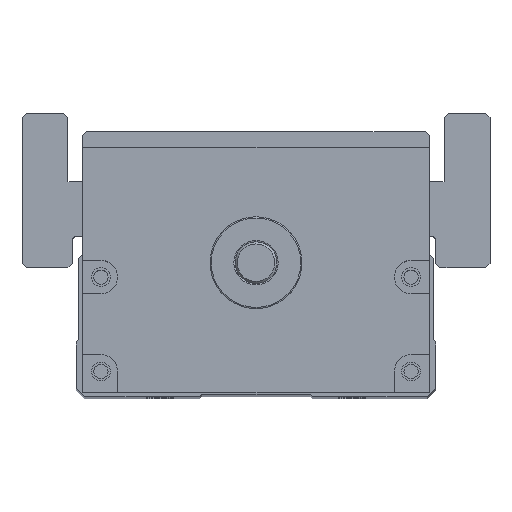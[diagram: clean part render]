
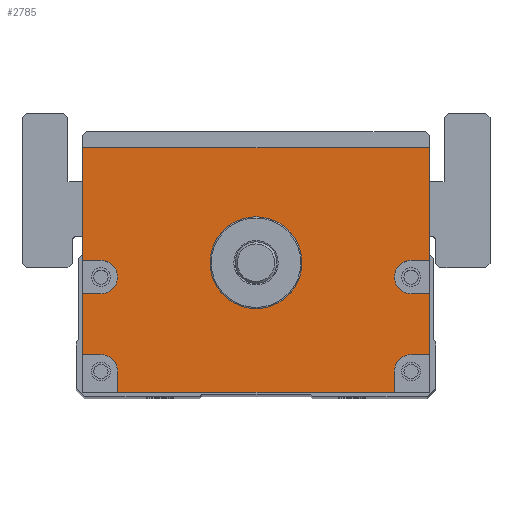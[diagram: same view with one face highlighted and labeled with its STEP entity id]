
A CAD part, top view. The second image highlights one B-rep face of the part: STEP entity #2785.
In plain terms, the highlighted planar face has unit normal (0, 0, 1).
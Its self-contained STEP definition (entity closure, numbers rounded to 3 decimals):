
#875=PLANE('',#10726);
#1195=LINE('',#14603,#1991);
#1197=LINE('',#14611,#1993);
#1198=LINE('',#14614,#1994);
#1199=LINE('',#14616,#1995);
#1200=LINE('',#14620,#1996);
#1201=LINE('',#14622,#1997);
#1202=LINE('',#14623,#1998);
#1203=LINE('',#14625,#1999);
#1204=LINE('',#14629,#2000);
#1205=LINE('',#14631,#2001);
#1206=LINE('',#14633,#2002);
#1207=LINE('',#14637,#2003);
#1208=LINE('',#14639,#2004);
#1209=LINE('',#14641,#2005);
#1991=VECTOR('',#11759,1.);
#1993=VECTOR('',#11767,1.);
#1994=VECTOR('',#11768,1.);
#1995=VECTOR('',#11769,1.);
#1996=VECTOR('',#11772,1.);
#1997=VECTOR('',#11773,1.);
#1998=VECTOR('',#11774,1.);
#1999=VECTOR('',#11775,1.);
#2000=VECTOR('',#11778,1.);
#2001=VECTOR('',#11779,1.);
#2002=VECTOR('',#11780,1.);
#2003=VECTOR('',#11783,1.);
#2004=VECTOR('',#11784,1.);
#2005=VECTOR('',#11785,1.);
#2785=ADVANCED_FACE('',(#3644,#3645),#875,.T.);
#3644=FACE_BOUND('',#4112,.T.);
#3645=FACE_BOUND('',#4113,.T.);
#4112=EDGE_LOOP('',(#4998,#4999,#5000,#5001,#5002,#5003,#5004,#5005,#5006,
#5007,#5008,#5009,#5010,#5011,#5012,#5013,#5014,#5015));
#4113=EDGE_LOOP('',(#5016));
#4998=ORIENTED_EDGE('',*,*,#8879,.F.);
#4999=ORIENTED_EDGE('',*,*,#8880,.T.);
#5000=ORIENTED_EDGE('',*,*,#8881,.F.);
#5001=ORIENTED_EDGE('',*,*,#8882,.F.);
#5002=ORIENTED_EDGE('',*,*,#8883,.F.);
#5003=ORIENTED_EDGE('',*,*,#8884,.T.);
#5004=ORIENTED_EDGE('',*,*,#8875,.T.);
#5005=ORIENTED_EDGE('',*,*,#8885,.T.);
#5006=ORIENTED_EDGE('',*,*,#8886,.F.);
#5007=ORIENTED_EDGE('',*,*,#8887,.F.);
#5008=ORIENTED_EDGE('',*,*,#8888,.F.);
#5009=ORIENTED_EDGE('',*,*,#8889,.T.);
#5010=ORIENTED_EDGE('',*,*,#8890,.F.);
#5011=ORIENTED_EDGE('',*,*,#8891,.F.);
#5012=ORIENTED_EDGE('',*,*,#8892,.F.);
#5013=ORIENTED_EDGE('',*,*,#8893,.T.);
#5014=ORIENTED_EDGE('',*,*,#8894,.F.);
#5015=ORIENTED_EDGE('',*,*,#8895,.F.);
#5016=ORIENTED_EDGE('',*,*,#8861,.T.);
#7831=VERTEX_POINT('',#14574);
#7844=VERTEX_POINT('',#14602);
#7845=VERTEX_POINT('',#14604);
#7848=VERTEX_POINT('',#14612);
#7849=VERTEX_POINT('',#14613);
#7850=VERTEX_POINT('',#14615);
#7851=VERTEX_POINT('',#14617);
#7852=VERTEX_POINT('',#14619);
#7853=VERTEX_POINT('',#14621);
#7854=VERTEX_POINT('',#14624);
#7855=VERTEX_POINT('',#14626);
#7856=VERTEX_POINT('',#14628);
#7857=VERTEX_POINT('',#14630);
#7858=VERTEX_POINT('',#14632);
#7859=VERTEX_POINT('',#14634);
#7860=VERTEX_POINT('',#14636);
#7861=VERTEX_POINT('',#14638);
#7862=VERTEX_POINT('',#14640);
#7863=VERTEX_POINT('',#14642);
#8861=EDGE_CURVE('',#7831,#7831,#10287,.T.);
#8875=EDGE_CURVE('',#7845,#7844,#1195,.T.);
#8879=EDGE_CURVE('',#7848,#7849,#1197,.T.);
#8880=EDGE_CURVE('',#7848,#7850,#1198,.T.);
#8881=EDGE_CURVE('',#7851,#7850,#1199,.T.);
#8882=EDGE_CURVE('',#7852,#7851,#10298,.T.);
#8883=EDGE_CURVE('',#7853,#7852,#1200,.T.);
#8884=EDGE_CURVE('',#7853,#7845,#1201,.T.);
#8885=EDGE_CURVE('',#7844,#7854,#1202,.T.);
#8886=EDGE_CURVE('',#7855,#7854,#1203,.T.);
#8887=EDGE_CURVE('',#7856,#7855,#10299,.T.);
#8888=EDGE_CURVE('',#7857,#7856,#1204,.T.);
#8889=EDGE_CURVE('',#7857,#7858,#1205,.T.);
#8890=EDGE_CURVE('',#7859,#7858,#1206,.T.);
#8891=EDGE_CURVE('',#7860,#7859,#10300,.T.);
#8892=EDGE_CURVE('',#7861,#7860,#1207,.T.);
#8893=EDGE_CURVE('',#7861,#7862,#1208,.T.);
#8894=EDGE_CURVE('',#7863,#7862,#1209,.T.);
#8895=EDGE_CURVE('',#7849,#7863,#10301,.T.);
#10287=CIRCLE('',#10708,11.);
#10298=CIRCLE('',#10722,4.);
#10299=CIRCLE('',#10723,4.);
#10300=CIRCLE('',#10724,4.);
#10301=CIRCLE('',#10725,4.);
#10708=AXIS2_PLACEMENT_3D('',#14573,#11732,#11733);
#10722=AXIS2_PLACEMENT_3D('',#14618,#11770,#11771);
#10723=AXIS2_PLACEMENT_3D('',#14627,#11776,#11777);
#10724=AXIS2_PLACEMENT_3D('',#14635,#11781,#11782);
#10725=AXIS2_PLACEMENT_3D('',#14643,#11786,#11787);
#10726=AXIS2_PLACEMENT_3D('',#14644,#11788,#11789);
#11732=DIRECTION('',(0.,0.,-1.));
#11733=DIRECTION('',(1.,0.,0.));
#11759=DIRECTION('',(-1.,0.,0.));
#11767=DIRECTION('',(-1.,0.,0.));
#11768=DIRECTION('',(0.,1.,0.));
#11769=DIRECTION('',(1.,0.,0.));
#11770=DIRECTION('',(0.,0.,1.));
#11771=DIRECTION('',(1.,0.,0.));
#11772=DIRECTION('',(-1.,0.,0.));
#11773=DIRECTION('',(0.,1.,0.));
#11774=DIRECTION('',(0.,-1.,0.));
#11775=DIRECTION('',(-1.,0.,0.));
#11776=DIRECTION('',(0.,0.,1.));
#11777=DIRECTION('',(1.,0.,0.));
#11778=DIRECTION('',(1.,0.,0.));
#11779=DIRECTION('',(0.,-1.,0.));
#11780=DIRECTION('',(-1.,0.,0.));
#11781=DIRECTION('',(0.,0.,1.));
#11782=DIRECTION('',(1.,0.,0.));
#11783=DIRECTION('',(0.,1.,0.));
#11784=DIRECTION('',(1.,0.,0.));
#11785=DIRECTION('',(0.,-1.,0.));
#11786=DIRECTION('',(0.,0.,1.));
#11787=DIRECTION('',(1.,0.,0.));
#11788=DIRECTION('',(0.,0.,1.));
#11789=DIRECTION('',(-1.,0.,0.));
#14573=CARTESIAN_POINT('',(750.,0.,182.5));
#14574=CARTESIAN_POINT('',(761.,0.,182.5));
#14602=CARTESIAN_POINT('',(708.5,27.5,182.5));
#14603=CARTESIAN_POINT('',(791.5,27.5,182.5));
#14604=CARTESIAN_POINT('',(791.5,27.5,182.5));
#14611=CARTESIAN_POINT('',(791.5,-22.,182.5));
#14612=CARTESIAN_POINT('',(791.5,-22.,182.5));
#14613=CARTESIAN_POINT('',(787.115,-22.,182.5));
#14614=CARTESIAN_POINT('',(791.5,-31.,182.5));
#14615=CARTESIAN_POINT('',(791.5,-7.431,182.5));
#14616=CARTESIAN_POINT('',(791.5,-7.431,182.5));
#14617=CARTESIAN_POINT('',(787.115,-7.431,182.5));
#14618=CARTESIAN_POINT('',(787.115,-3.431,182.5));
#14619=CARTESIAN_POINT('',(787.115,0.569,182.5));
#14620=CARTESIAN_POINT('',(791.5,0.569,182.5));
#14621=CARTESIAN_POINT('',(791.5,0.569,182.5));
#14622=CARTESIAN_POINT('',(791.5,-31.,182.5));
#14623=CARTESIAN_POINT('',(708.5,27.5,182.5));
#14624=CARTESIAN_POINT('',(708.5,0.569,182.5));
#14625=CARTESIAN_POINT('',(791.5,0.569,182.5));
#14626=CARTESIAN_POINT('',(712.885,0.569,182.5));
#14627=CARTESIAN_POINT('',(712.885,-3.431,182.5));
#14628=CARTESIAN_POINT('',(712.885,-7.431,182.5));
#14629=CARTESIAN_POINT('',(791.5,-7.431,182.5));
#14630=CARTESIAN_POINT('',(708.5,-7.431,182.5));
#14631=CARTESIAN_POINT('',(708.5,27.5,182.5));
#14632=CARTESIAN_POINT('',(708.5,-22.,182.5));
#14633=CARTESIAN_POINT('',(791.5,-22.,182.5));
#14634=CARTESIAN_POINT('',(712.885,-22.,182.5));
#14635=CARTESIAN_POINT('',(712.885,-26.,182.5));
#14636=CARTESIAN_POINT('',(716.885,-26.,182.5));
#14637=CARTESIAN_POINT('',(716.885,-31.,182.5));
#14638=CARTESIAN_POINT('',(716.885,-31.,182.5));
#14639=CARTESIAN_POINT('',(708.5,-31.,182.5));
#14640=CARTESIAN_POINT('',(783.115,-31.,182.5));
#14641=CARTESIAN_POINT('',(783.115,-31.,182.5));
#14642=CARTESIAN_POINT('',(783.115,-26.,182.5));
#14643=CARTESIAN_POINT('',(787.115,-26.,182.5));
#14644=CARTESIAN_POINT('',(791.5,-31.,182.5));
